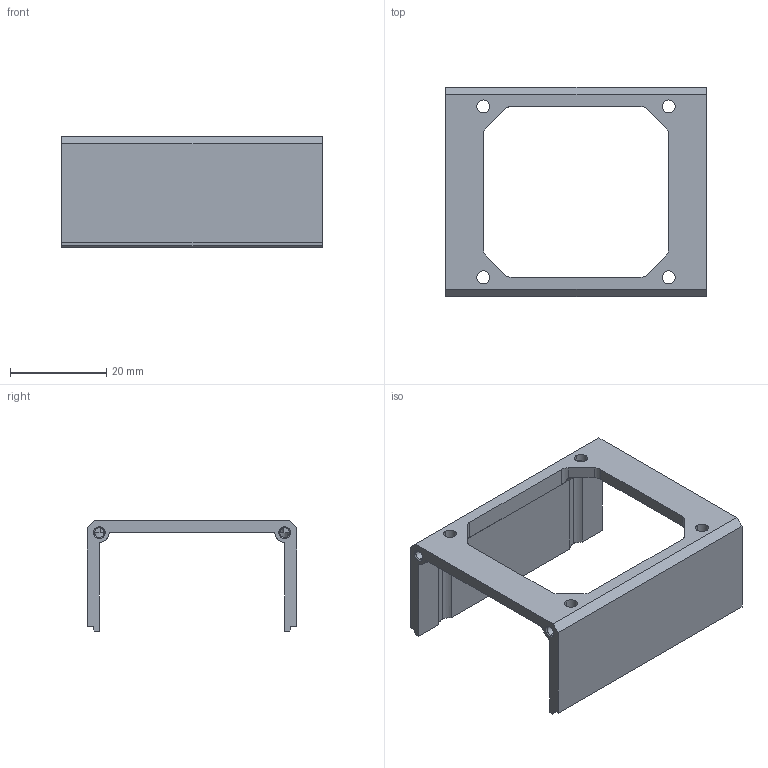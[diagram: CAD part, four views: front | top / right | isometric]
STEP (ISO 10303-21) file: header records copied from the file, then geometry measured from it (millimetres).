
FILE_DESCRIPTION(/* description */ ('VariCAD 2010-2.03 AP-203'),/* implementation_level */ '2;1');
FILE_NAME(/* name */ '0353-10-06',/* time_stamp */ '2010-09-14T16:45:07-06:00',/* author */ (''),/* organization */ (''),/* preprocessor_version */ 'ST-DEVELOPER v12',/* originating_system */ 'VariCAD 2010-2.03; kernel version (20100102)',/* authorisation */ '');
FILE_SCHEMA (('CONFIG_CONTROL_DESIGN'));
Length unit declared in the file: millimetre
Products named in the file (1): Part
Bounding box: 54 x 43.5 x 23 mm (x, y, z)
Volume: 7798.8 mm3; surface area: 7902.4 mm2
Topology: 5 solids, 5 shells, 135 faces, 378 edges, 244 vertices
Faces by surface type: cylinder 76, plane 51, cone 8
Entity records: 4762 total; most frequent: CARTESIAN_POINT 1175, ORIENTED_EDGE 756, DIRECTION 732, EDGE_CURVE 378, AXIS2_PLACEMENT_3D 269, VERTEX_POINT 244, LINE 194, VECTOR 194
